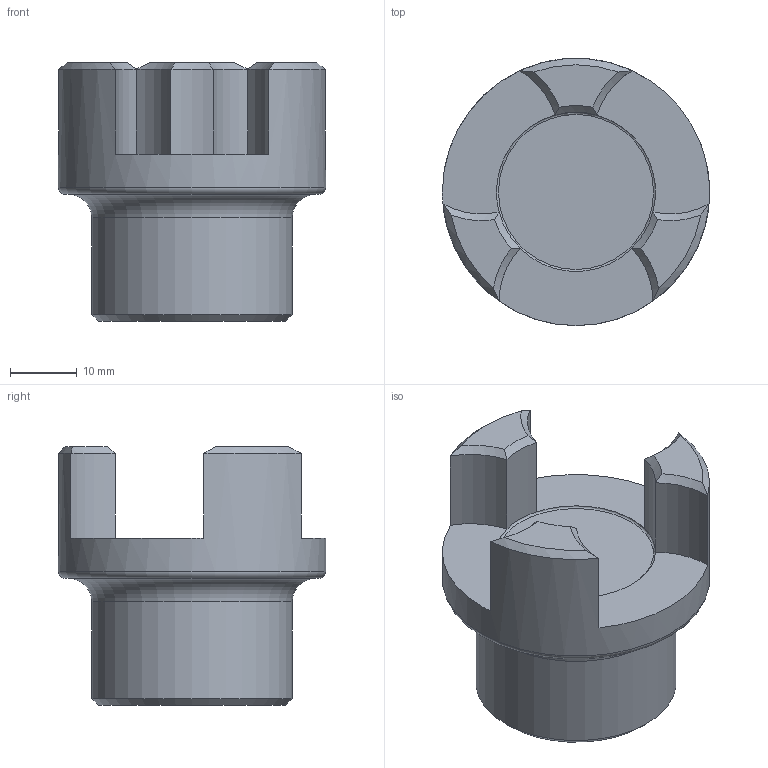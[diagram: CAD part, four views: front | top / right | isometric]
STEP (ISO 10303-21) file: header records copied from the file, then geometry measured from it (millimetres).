
FILE_DESCRIPTION(/* description */ (''),/* implementation_level */ '2;1');
FILE_NAME(/* name */ 'C:\Users\stagistacad\Desktop\02301920.stp',/* time_stamp */ '2018-06-14T11:49:28+02:00',/* author */ ('stagistacad'),/* organization */ (''),/* preprocessor_version */ 'ST-DEVELOPER v15.6',/* originating_system */ 'Autodesk Inventor 2015',/* authorisation */ '');
FILE_SCHEMA (('AUTOMOTIVE_DESIGN { 1 0 10303 214 3 1 1 }'));
Length unit declared in the file: millimetre
Products named in the file (1): 02301920
Bounding box: 40 x 40 x 38.7 mm (x, y, z)
Volume: 24467.6 mm3; surface area: 6467.4 mm2
Topology: 1 solids, 1 shells, 37 faces, 81 edges, 47 vertices
Faces by surface type: cone 14, cylinder 11, plane 9, torus 3
Full cylindrical faces by diameter (mm): 30 x1, 40 x1
Entity records: 988 total; most frequent: CARTESIAN_POINT 189, DIRECTION 182, ORIENTED_EDGE 142, AXIS2_PLACEMENT_3D 85, EDGE_CURVE 71, CIRCLE 47, EDGE_LOOP 45, VERTEX_POINT 44
